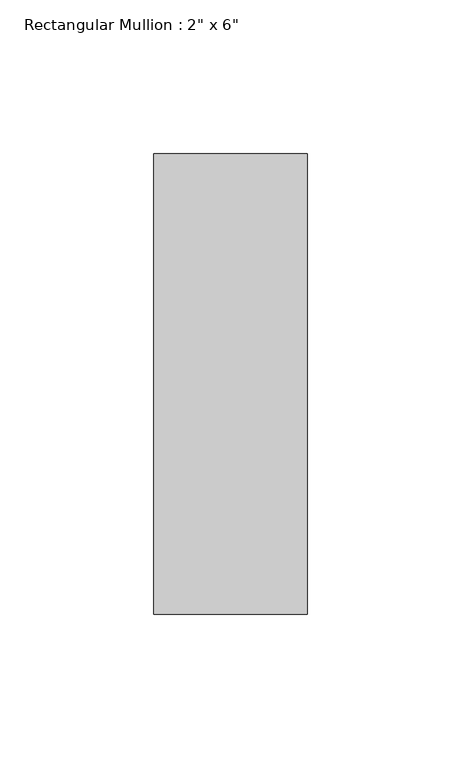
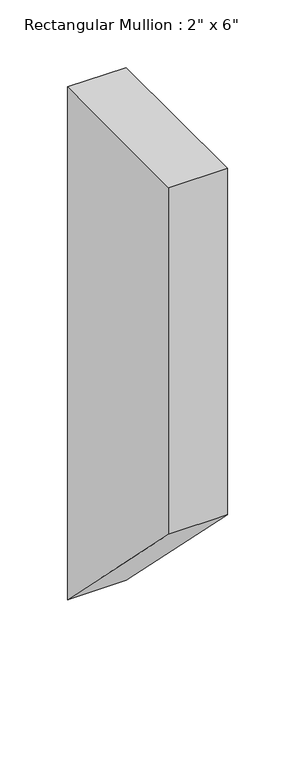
"""IFC4 building model written with IfcOpenShell, lengths in millimetres: member geometry."""

import ifcopenshell
import ifcopenshell.guid

model = None  # the IFC model being written
_history = None  # IfcOwnerHistory: only IFC2X3 demands one
_inside = {}  # id of a spatial element -> (the spatial element, [elements in it])
_under = {}  # id of a project, library or spatial element -> (it, [spatial elements below it])
_declared = {}  # id of a project -> (the project, [libraries it declares])
_typed = {}  # id of a type object -> (the type object, [elements of that type])
_made_of = {}  # id of a material, layer set ... -> (it, [elements and type objects made of it])


def new_model(schema):
    """Start an empty IFC model of exactly this schema.

    Asked for "IFC4X3", IfcOpenShell would pick the latest addendum, in which some entities
    have other attributes; the version numbers below select the first issue.
    IFC2X3 requires an IfcOwnerHistory on every rooted entity: one is made here for all.
    """
    global model, _history
    if schema == "IFC4X3":
        model = ifcopenshell.file(schema_version=(4, 3, 0, 0))
    else:
        model = ifcopenshell.file(schema=schema)
    _inside.clear()
    _under.clear()
    _declared.clear()
    _typed.clear()
    _made_of.clear()
    _history = None
    if model.schema == "IFC2X3":
        org = make("IfcOrganization", Name="unknown")
        user = make(
            "IfcPersonAndOrganization",
            ThePerson=make("IfcPerson", FamilyName="unknown"),
            TheOrganization=org,
        )
        app = make(
            "IfcApplication",
            ApplicationDeveloper=org,
            Version="unknown",
            ApplicationFullName="unknown",
            ApplicationIdentifier="unknown",
        )
        _history = make(
            "IfcOwnerHistory",
            OwningUser=user,
            OwningApplication=app,
            ChangeAction="ADDED",
            CreationDate=0,
        )
    return model


def make(cls, **values):
    """One entity of the class cls with the attributes given. An attribute that is None is left unset."""
    return model.create_entity(
        cls, **{name: value for name, value in values.items() if value is not None}
    )


def rooted(cls, **values):
    """An entity with a GlobalId (a new one), such as an element, a storey or a relation."""
    return make(cls, GlobalId=ifcopenshell.guid.new(), OwnerHistory=_history, **values)


def si_unit(unit_type, name, prefix=None):
    """IfcSIUnit, for example si_unit("LENGTHUNIT", "METRE", prefix="MILLI")."""
    return make("IfcSIUnit", UnitType=unit_type, Prefix=prefix, Name=name)


def assignment(units):
    """IfcUnitAssignment: the units of a project."""
    return None if units is None else make("IfcUnitAssignment", Units=units)


def point(xyz):
    """IfcCartesianPoint."""
    return None if xyz is None else make("IfcCartesianPoint", Coordinates=xyz)


def direction(xyz):
    """IfcDirection."""
    return None if xyz is None else make("IfcDirection", DirectionRatios=xyz)


def frame(location, z_axis=None, x_axis=None):
    """IfcAxis2Placement3D, a coordinate frame: its origin and axes. An axis left out is left unset."""
    return make(
        "IfcAxis2Placement3D",
        Location=point(location),
        Axis=direction(z_axis),
        RefDirection=direction(x_axis),
    )


def origin():
    """The frame at (0, 0, 0) with its axes left unset."""
    return frame((0.0, 0.0, 0.0))


def place(relative_to, where):
    """IfcLocalPlacement: puts the frame where relative to a parent placement (None: the world)."""
    return make(
        "IfcLocalPlacement", PlacementRelTo=relative_to, RelativePlacement=where
    )


def context(
    kind, dimensions, precision=None, world=None, true_north=None, identifier=None
):
    """IfcGeometricRepresentationContext, for example the 3D "Model" context."""
    return make(
        "IfcGeometricRepresentationContext",
        ContextIdentifier=identifier,
        ContextType=kind,
        CoordinateSpaceDimension=dimensions,
        Precision=precision,
        WorldCoordinateSystem=world,
        TrueNorth=true_north,
    )


def project(units=None, contexts=None):
    """IfcProject with its units and contexts."""
    return rooted(
        "IfcProject",
        Name="project",
        RepresentationContexts=contexts,
        UnitsInContext=assignment(units),
    )


def spatial(cls, under=None, at=None, **own):
    """A site, building, storey or space (cls), placed at a placement, below another one or the project."""
    s = rooted(cls, ObjectPlacement=at, **own)
    if under is not None:
        _under.setdefault(under.id(), (under, []))[1].append(s)
    return s


def polyline(points):
    """IfcPolyline through the points."""
    return make("IfcPolyline", Points=[point(p) for p in points])


def outline(outer, holes=None, kind="AREA"):
    """IfcArbitraryClosedProfileDef: a profile drawn as a closed curve; with holes, ...WithVoids."""
    if holes is None:
        return make("IfcArbitraryClosedProfileDef", ProfileType=kind, OuterCurve=outer)
    return make(
        "IfcArbitraryProfileDefWithVoids",
        ProfileType=kind,
        OuterCurve=outer,
        InnerCurves=holes,
    )


def extrude(swept, where, along, depth):
    """IfcExtrudedAreaSolid: the profile swept, set in the frame where, extruded along a direction by depth."""
    return make(
        "IfcExtrudedAreaSolid",
        SweptArea=swept,
        Position=where,
        ExtrudedDirection=direction(along),
        Depth=depth,
    )


def shape(context_of_items, identifier, shape_type, items):
    """IfcShapeRepresentation: the items that make up one representation, for example the "Body"."""
    return make(
        "IfcShapeRepresentation",
        ContextOfItems=context_of_items,
        RepresentationIdentifier=identifier,
        RepresentationType=shape_type,
        Items=items,
    )


def source(mapping_origin, context_of_items, identifier, shape_type, items):
    """IfcRepresentationMap: a shape defined once, which mapped items show again and again."""
    return make(
        "IfcRepresentationMap",
        MappingOrigin=mapping_origin,
        MappedRepresentation=shape(context_of_items, identifier, shape_type, items),
    )


def transform(
    local_origin,
    x_axis=None,
    y_axis=None,
    z_axis=None,
    scale=None,
    scale2=None,
    scale3=None,
    uniform=True,
):
    """IfcCartesianTransformationOperator3D, or its non-uniform kind. x_axis, y_axis, z_axis: its Axis1, 2, 3."""
    if uniform:
        return make(
            "IfcCartesianTransformationOperator3D",
            Axis1=direction(x_axis),
            Axis2=direction(y_axis),
            LocalOrigin=point(local_origin),
            Scale=scale,
            Axis3=direction(z_axis),
        )
    return make(
        "IfcCartesianTransformationOperator3DnonUniform",
        Axis1=direction(x_axis),
        Axis2=direction(y_axis),
        LocalOrigin=point(local_origin),
        Scale=scale,
        Axis3=direction(z_axis),
        Scale2=scale2,
        Scale3=scale3,
    )


def mapped(mapping_source, mapping_target):
    """IfcMappedItem: shows the shape of a source again, moved by a transform."""
    return make(
        "IfcMappedItem", MappingSource=mapping_source, MappingTarget=mapping_target
    )


def made_of(thing, what):
    """Note that an element or type object is made of a material, layer set ...; save() writes the relation."""
    if what is not None:
        _made_of.setdefault(what.id(), (what, []))[1].append(thing)
    return thing


def element(
    cls,
    number,
    at=None,
    inside=None,
    cuts=None,
    type_object=None,
    material=None,
    context=None,
    identifier="Body",
    shape_type=None,
    held_by="IfcProductDefinitionShape",
    body=None,
    shapes=None,
    **own,
):
    """One element of the class cls, such as IfcWall. Its Tag is "e" and its number.

    at: its placement. inside: the storey or other place that contains it. cuts: it is an
    opening in that element (IfcRelVoidsElement). A single representation is given by context,
    identifier, shape_type and body (its items); several are given by shapes. held_by: the class
    of the entity that holds the representations. save() writes the other relations.
    """
    e = rooted(cls, Tag="e%d" % number, ObjectPlacement=at, **own)
    if body is not None:
        shapes = [shape(context, identifier, shape_type, body)]
    if shapes is not None:
        e.Representation = make(held_by, Representations=shapes)
    if inside is not None:
        _inside.setdefault(inside.id(), (inside, []))[1].append(e)
    if cuts is not None:
        rooted(
            "IfcRelVoidsElement", RelatingBuildingElement=cuts, RelatedOpeningElement=e
        )
    if type_object is not None:
        _typed.setdefault(type_object.id(), (type_object, []))[1].append(e)
    return made_of(e, material)


def aggregate(whole, parts):
    """IfcRelAggregates: a whole, such as a stair, and the parts it consists of."""
    return rooted("IfcRelAggregates", RelatingObject=whole, RelatedObjects=parts)


def save(model, path):
    """Write the relations noted so far, then the file.

    IfcRelAggregates (storeys below a building ...), IfcRelContainedInSpatialStructure (elements
    in a storey), IfcRelDefinesByType, IfcRelAssociatesMaterial and IfcRelDeclares: one each for
    every whole, place, type object, material and project.
    """
    for whole, parts in _under.values():
        aggregate(whole, parts)
    for where, things in _inside.values():
        rooted(
            "IfcRelContainedInSpatialStructure",
            RelatedElements=things,
            RelatingStructure=where,
        )
    for kind, things in _typed.values():
        rooted("IfcRelDefinesByType", RelatedObjects=things, RelatingType=kind)
    for what, things in _made_of.values():
        rooted("IfcRelAssociatesMaterial", RelatedObjects=things, RelatingMaterial=what)
    for by, libraries in _declared.values():
        rooted("IfcRelDeclares", RelatingContext=by, RelatedDefinitions=libraries)
    model.write(path)


def member_b42db17e(model_context):
    return source(origin(), model_context, "Body", "SweptSolid", [
        extrude(outline(polyline([(-150.0, 0.0), (0.0, 0.0), (0.0, -462.9999995), (-150.0, -312.9999995), (-150.0, 0.0)])), frame((-50.0, 0.0, 0.0), z_axis=(1.0, 0.0, 0.0), x_axis=(0.0, 1.0, 0.0)), (0.0, 0.0, 1.0), 50.0),
    ])


if __name__ == "__main__":
    model = new_model("IFC4")
    model_context = context("Model", 3, world=origin())
    ifc_project = project(units=[si_unit("LENGTHUNIT", "METRE", prefix="MILLI")], contexts=[model_context])
    site = spatial("IfcSite", under=ifc_project)
    building = spatial("IfcBuilding", under=site)
    placement = place(None, origin())
    member_shape = member_b42db17e(model_context)
    element("IfcMember", 1, ObjectType="Rectangular Mullion : 2\" x 6\"", at=placement, inside=building, context=model_context, shape_type="MappedRepresentation", body=[
        mapped(member_shape, transform((0.0, 0.0, 0.0), x_axis=(1.0, 0.0, 0.0), y_axis=(0.0, 1.0, 0.0), z_axis=(0.0, 0.0, 1.0))),
    ])
    save(model, "model.ifc")
